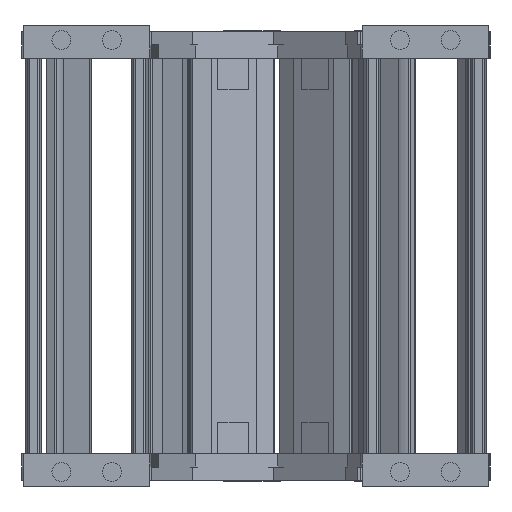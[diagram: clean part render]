
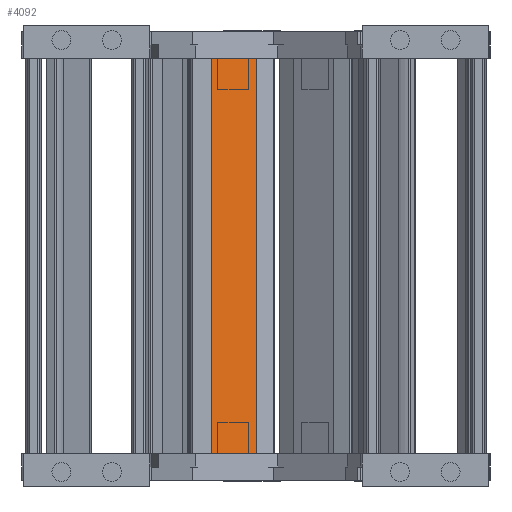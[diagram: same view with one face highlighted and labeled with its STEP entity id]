
A CAD part, left-side view. The second image highlights one B-rep face of the part: STEP entity #4092.
In plain terms, the highlighted planar face has unit normal (-0.962, -0.273, 0) as drawn and (0, -1, 0) by its records, which use the part's own axes.
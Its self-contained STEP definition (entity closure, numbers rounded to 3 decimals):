
#3646=DIRECTION('',(0.,0.,-1.));
#3647=VECTOR('',#3646,15.);
#3648=CARTESIAN_POINT('',(-13.5,0.,7.5));
#3649=LINE('',#3648,#3647);
#3733=DIRECTION('',(-1.,0.,0.));
#3734=VECTOR('',#3733,125.4);
#3735=CARTESIAN_POINT('',(111.9,0.,-7.5));
#3736=LINE('',#3735,#3734);
#3740=DIRECTION('',(1.,0.,0.));
#3741=VECTOR('',#3740,125.4);
#3742=CARTESIAN_POINT('',(-13.5,0.,7.5));
#3743=LINE('',#3742,#3741);
#3747=DIRECTION('',(0.,0.,-1.));
#3748=VECTOR('',#3747,15.);
#3749=CARTESIAN_POINT('',(111.9,0.,7.5));
#3750=LINE('',#3749,#3748);
#3865=CARTESIAN_POINT('',(111.9,0.,7.5));
#3866=CARTESIAN_POINT('',(111.9,0.,-7.5));
#3867=VERTEX_POINT('',#3865);
#3868=VERTEX_POINT('',#3866);
#3889=CARTESIAN_POINT('',(-13.5,0.,-7.5));
#3890=VERTEX_POINT('',#3889);
#3891=CARTESIAN_POINT('',(-13.5,0.,7.5));
#3892=VERTEX_POINT('',#3891);
#4079=CARTESIAN_POINT('',(80.4,0.,0.));
#4080=DIRECTION('',(0.,1.,0.));
#4081=DIRECTION('',(1.,0.,0.));
#4082=AXIS2_PLACEMENT_3D('',#4079,#4080,#4081);
#4083=PLANE('',#4082);
#4084=ORIENTED_EDGE('',*,*,#4065,.T.);
#4085=ORIENTED_EDGE('',*,*,#3930,.F.);
#4087=ORIENTED_EDGE('',*,*,#4086,.T.);
#4089=ORIENTED_EDGE('',*,*,#4088,.T.);
#4090=EDGE_LOOP('',(#4084,#4085,#4087,#4089));
#4091=FACE_OUTER_BOUND('',#4090,.F.);
#4092=ADVANCED_FACE('',(#4091),#4083,.F.);
#3930=EDGE_CURVE('',#3892,#3890,#3649,.T.);
#4065=EDGE_CURVE('',#3868,#3890,#3736,.T.);
#4086=EDGE_CURVE('',#3892,#3867,#3743,.T.);
#4088=EDGE_CURVE('',#3867,#3868,#3750,.T.);
